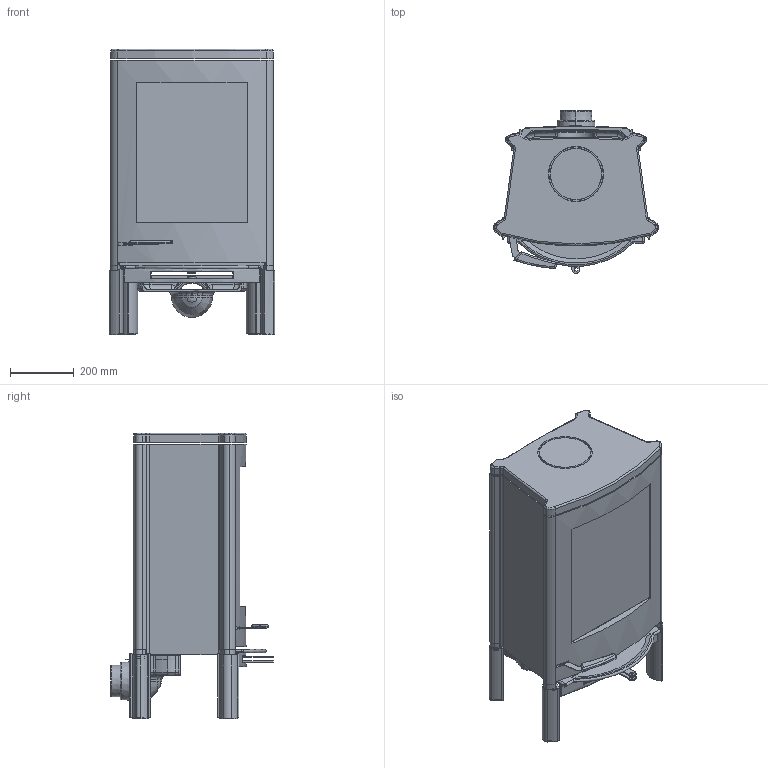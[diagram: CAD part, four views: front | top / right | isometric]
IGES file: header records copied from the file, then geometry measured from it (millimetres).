
Global section: file name: No Iges File Name specified; native system: AutoDesk Inventor R11.0; preprocessor: AutoDesk Inventor Iges Exporter R11.0; author: No Author specified; organization: No Organization specified; date: 20110311.120816; units: millimetre
Bounding box: 518.92 x 510 x 894 mm (x, y, z)
Volume: 26619185 mm3; surface area: 3654342.1 mm2
Topology: 14 solids, 14 shells, 1252 faces, 3269 edges, 2011 vertices
Faces by surface type: plane 554, bspline 237, revolution 193, cylinder 183, torus 68, cone 11, sphere 6
